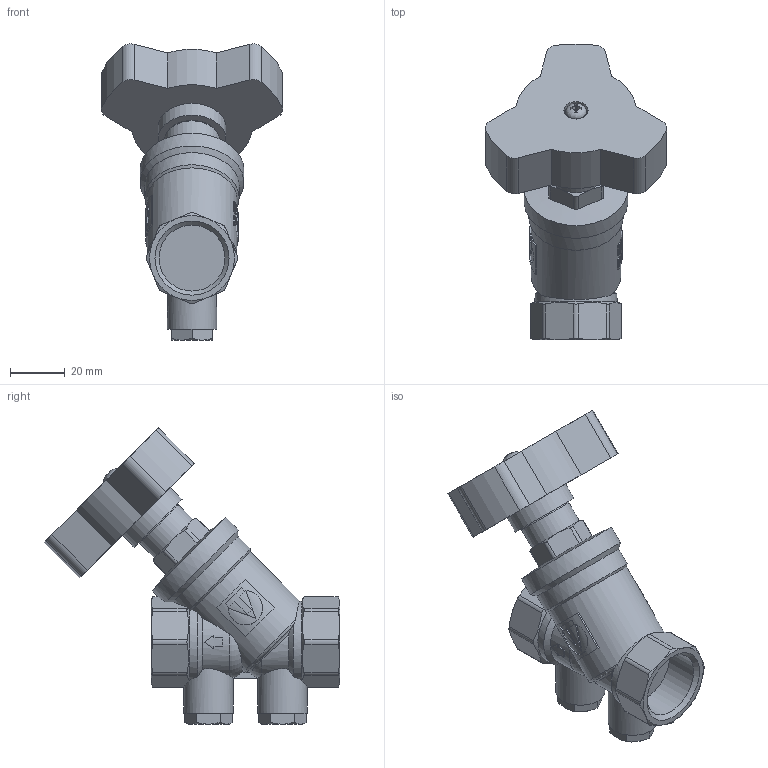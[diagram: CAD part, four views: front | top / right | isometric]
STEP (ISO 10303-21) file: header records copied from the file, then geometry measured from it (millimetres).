
FILE_DESCRIPTION(('STEP AP203'), '1');
FILE_NAME('覆.493116.003.000 捘 - VT.054.N.05', '2024-09-13T12:59:41', ('Boss'), (''), 'C3D Converter', 'C3D Toolkit', '');
FILE_SCHEMA(('CONFIG_CONTROL_DESIGN'));
Length unit declared in the file: millimetre
Products named in the file (3): ВР.493116.003.000 СБ
Assembly tree (2 placements, depth 2):
  ВР.493116.003.000 СБ
    (unnamed)
    (unnamed)
Bounding box: 66.31 x 108.14 x 108.33 mm (x, y, z)
Volume: 122577.5 mm3; surface area: 27541.2 mm2
Topology: 3 solids, 3 shells, 461 faces, 1224 edges, 798 vertices
Faces by surface type: plane 176, extrusion 129, cylinder 87, cone 54, torus 8, bspline 7
Full cylindrical faces by diameter (mm): 3.242 x1, 4 x1, 4.2 x1, 7.5 x1, 8.9 x1, 9 x1, 9.3 x1, 17.3 x1, 18 x2, 20 x1, 24.118 x2, 24.8 x1, 38 x1
Entity records: 24404 total; most frequent: CARTESIAN_POINT 13944, ORIENTED_EDGE 2400, DIRECTION 1610, EDGE_CURVE 1200, VERTEX_POINT 798, B_SPLINE_CURVE_WITH_KNOTS 626, VECTOR 574, AXIS2_PLACEMENT_3D 518
